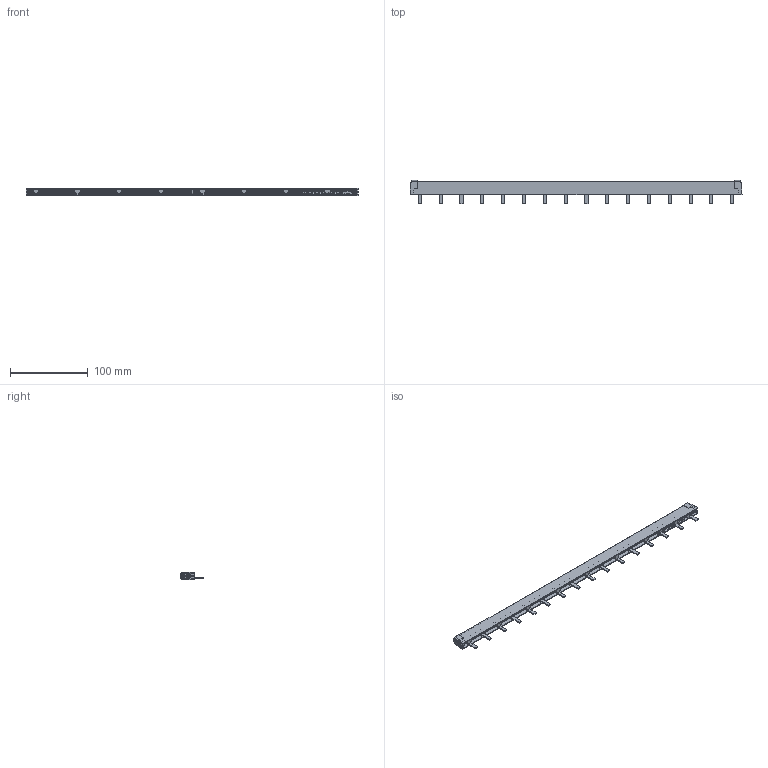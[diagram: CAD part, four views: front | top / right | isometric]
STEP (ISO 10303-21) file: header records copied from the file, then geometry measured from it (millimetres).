
FILE_DESCRIPTION((''),'2;1');
FILE_NAME('BQT7806000-3D_ASM','2024-04-12T15:40:34',('SESA730405'),('Schneider-Electric'),'CREO PARAMETRIC BY PTC INC, 2021284','CREO PARAMETRIC BY PTC INC, 2021284','');
FILE_SCHEMA(('AP242_MANAGED_MODEL_BASED_3D_ENGINEERING_MIM_LF { 1 0 10303 442 1 1 4 }'));
Length unit declared in the file: millimetre
Products named in the file (6): BQT7806000-3D_SIMPLIFIED_1_1; BQT7806000-3D_SIMPLIFIED_1_2; BQT7806000-3D_SIMPLIFIED_1_3; BQT7806000-3D_SIMPLIFIED_1_4; BQT7806000-3D_SIMPLIFIED_1_ASM; BQT7806000-3D_ASM
Assembly tree (5 placements, depth 3):
  BQT7806000-3D_ASM
    BQT7806000-3D_SIMPLIFIED_1_ASM
      BQT7806000-3D_SIMPLIFIED_1_1
      BQT7806000-3D_SIMPLIFIED_1_2
      BQT7806000-3D_SIMPLIFIED_1_3
      BQT7806000-3D_SIMPLIFIED_1_4
Bounding box: 428 x 29.76 x 10.2 mm (x, y, z)
Volume: 42405.3 mm3; surface area: 84058.2 mm2
Topology: 4 solids, 4 shells, 388 faces, 1136 edges, 746 vertices
Faces by surface type: plane 352, cylinder 36
Entity records: 16824 total; most frequent: CARTESIAN_POINT 2439, ORIENTED_EDGE 2272, DIRECTION 1981, PRESENTATION_STYLE_ASSIGNMENT 1160, STYLED_ITEM 1140, CURVE_STYLE 1136, EDGE_CURVE 1136, VECTOR 1039
